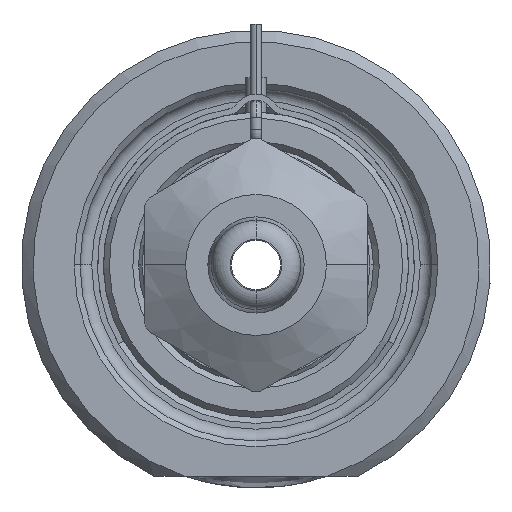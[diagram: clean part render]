
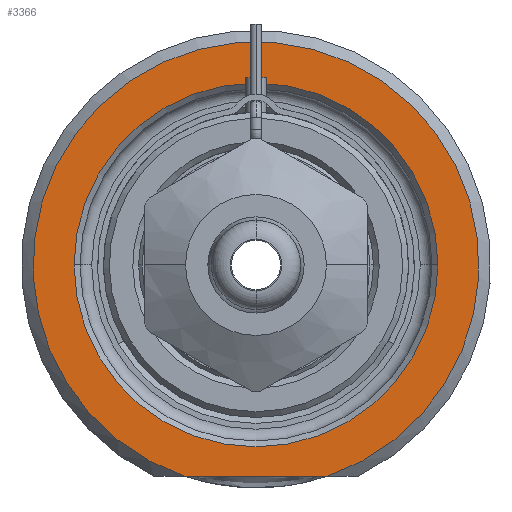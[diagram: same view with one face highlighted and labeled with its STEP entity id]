
A CAD part, front view. The second image highlights one B-rep face of the part: STEP entity #3366.
In plain terms, the highlighted planar face has unit normal (0, -1, 0).
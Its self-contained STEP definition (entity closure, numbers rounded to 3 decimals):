
#1=DIRECTION('',(1.,0.,0.));
#2=VECTOR('',#1,12.166);
#3=CARTESIAN_POINT('',(-6.083,0.,-18.));
#4=LINE('',#3,#2);
#5=CARTESIAN_POINT('',(0.,0.,0.));
#6=DIRECTION('',(0.,1.,0.));
#7=DIRECTION('',(-1.,0.,0.));
#8=AXIS2_PLACEMENT_3D('',#5,#6,#7);
#10=CARTESIAN_POINT('',(0.,0.,0.));
#11=DIRECTION('',(0.,1.,0.));
#12=DIRECTION('',(1.,0.,0.));
#13=AXIS2_PLACEMENT_3D('',#10,#11,#12);
#264=CARTESIAN_POINT('',(0.,0.,0.));
#265=DIRECTION('',(0.,-1.,0.));
#266=DIRECTION('',(0.32,0.,-0.947));
#267=AXIS2_PLACEMENT_3D('',#264,#265,#266);
#2822=CARTESIAN_POINT('',(-15.5,0.,0.));
#2823=CARTESIAN_POINT('',(15.5,0.,0.));
#2824=VERTEX_POINT('',#2822);
#2825=VERTEX_POINT('',#2823);
#2880=CARTESIAN_POINT('',(-6.083,0.,-18.));
#2881=CARTESIAN_POINT('',(6.083,0.,-18.));
#2882=VERTEX_POINT('',#2880);
#2883=VERTEX_POINT('',#2881);
#3349=CARTESIAN_POINT('',(0.,0.,0.));
#3350=DIRECTION('',(0.,-1.,0.));
#3351=DIRECTION('',(1.,0.,0.));
#3352=AXIS2_PLACEMENT_3D('',#3349,#3350,#3351);
#3353=PLANE('',#3352);
#3355=ORIENTED_EDGE('',*,*,#3354,.F.);
#3357=ORIENTED_EDGE('',*,*,#3356,.F.);
#3358=EDGE_LOOP('',(#3355,#3357));
#3359=FACE_OUTER_BOUND('',#3358,.F.);
#3361=ORIENTED_EDGE('',*,*,#3360,.F.);
#3363=ORIENTED_EDGE('',*,*,#3362,.F.);
#3364=EDGE_LOOP('',(#3361,#3363));
#3365=FACE_BOUND('',#3364,.F.);
#3366=ADVANCED_FACE('',(#3359,#3365),#3353,.T.);
#9=CIRCLE('',#8,15.5);
#14=CIRCLE('',#13,15.5);
#268=CIRCLE('',#267,19.);
#3354=EDGE_CURVE('',#2882,#2883,#4,.T.);
#3356=EDGE_CURVE('',#2883,#2882,#268,.T.);
#3360=EDGE_CURVE('',#2824,#2825,#9,.T.);
#3362=EDGE_CURVE('',#2825,#2824,#14,.T.);
